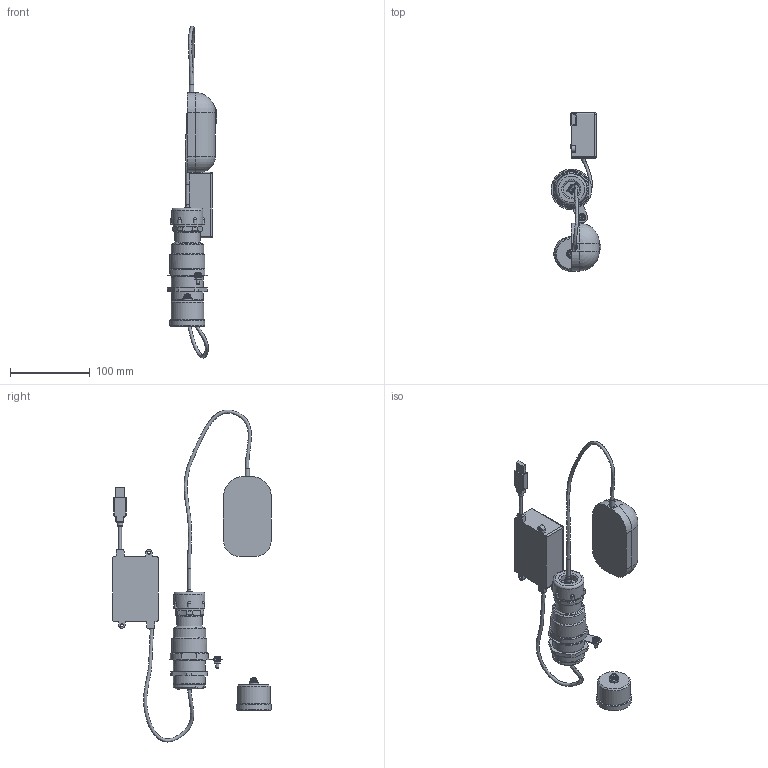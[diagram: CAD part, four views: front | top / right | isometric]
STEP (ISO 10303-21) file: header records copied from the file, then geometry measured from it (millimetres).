
FILE_DESCRIPTION (( 'STEP AP203' ), '1' );
FILE_NAME ('ﾊﾊﾃ-ﾌﾌ_3D.STEP', '2024-07-17T12:45:15', ( '' ), ( '' ), 'SwSTEP 2.0', 'SolidWorks 2018', '' );
FILE_SCHEMA (( 'CONFIG_CONTROL_DESIGN' ));
Length unit declared in the file: millimetre
Products named in the file (1): ﾊﾊﾃ-ﾌﾌ_3D
Bounding box: 62.42 x 199.05 x 416.77 mm (x, y, z)
Surface area: 94855.5 mm2 (no closed solid volume)
Topology: 0 solids, 10 shells, 514 faces, 1239 edges, 769 vertices
Faces by surface type: plane 218, cylinder 158, cone 68, torus 35, sphere 29, bspline 6
Full cylindrical faces by diameter (mm): 3.5 x2, 3.621 x2, 4 x5, 4.3 x3, 5 x1, 5.761 x1, 7 x3, 8.5 x1, 9 x3, 12 x1, 17 x2, 20 x2, 24 x4, 26 x3, 29.4 x1, 30 x1, 30.291 x1, 30.4 x2, 31 x1, 32 x1, 33 x1, 34 x1, 36 x1, 38.3 x1, 39 x1, 40 x2, 41 x2, 42.5 x1, 44 x2
Entity records: 18140 total; most frequent: CARTESIAN_POINT 7019, DIRECTION 2347, ORIENTED_EDGE 2130, EDGE_CURVE 1067, AXIS2_PLACEMENT_3D 941, VERTEX_POINT 719, EDGE_LOOP 678, FACE_OUTER_BOUND 577
